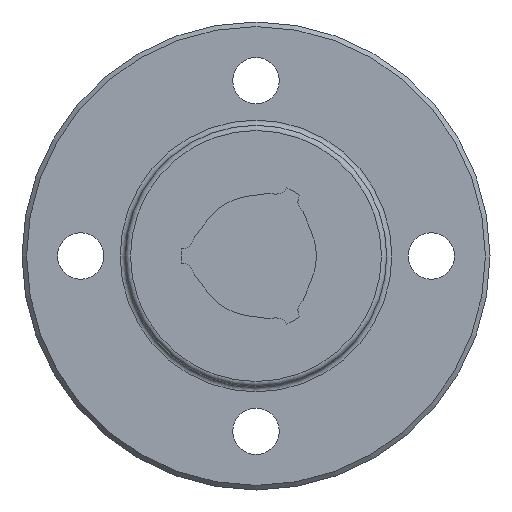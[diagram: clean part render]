
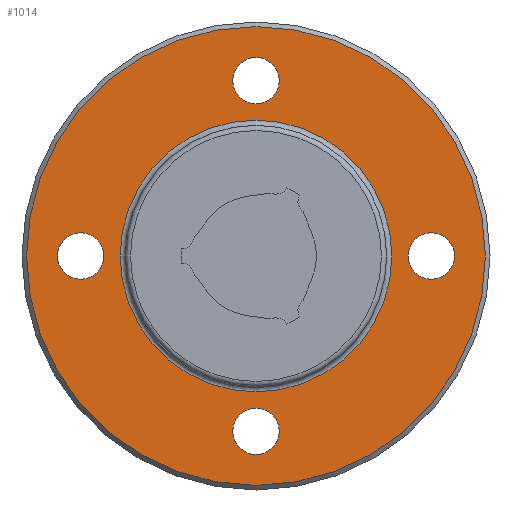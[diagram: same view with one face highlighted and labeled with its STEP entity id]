
A CAD part, left-side view. The second image highlights one B-rep face of the part: STEP entity #1014.
In plain terms, the highlighted planar face has unit normal (-1, 0, 0).
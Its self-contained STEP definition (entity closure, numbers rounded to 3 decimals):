
#52=PLANE('',#1143);
#325=ORIENTED_EDGE('',*,*,#537,.F.);
#326=ORIENTED_EDGE('',*,*,#538,.T.);
#327=ORIENTED_EDGE('',*,*,#539,.T.);
#328=ORIENTED_EDGE('',*,*,#540,.T.);
#329=ORIENTED_EDGE('',*,*,#541,.T.);
#330=ORIENTED_EDGE('',*,*,#536,.T.);
#536=EDGE_CURVE('',#654,#654,#730,.T.);
#537=EDGE_CURVE('',#655,#655,#731,.T.);
#538=EDGE_CURVE('',#656,#656,#732,.T.);
#539=EDGE_CURVE('',#657,#657,#733,.T.);
#540=EDGE_CURVE('',#658,#658,#734,.T.);
#541=EDGE_CURVE('',#659,#659,#735,.T.);
#654=VERTEX_POINT('',#1793);
#655=VERTEX_POINT('',#1796);
#656=VERTEX_POINT('',#1798);
#657=VERTEX_POINT('',#1800);
#658=VERTEX_POINT('',#1802);
#659=VERTEX_POINT('',#1804);
#730=CIRCLE('',#1142,13.175);
#731=CIRCLE('',#1144,22.25);
#732=CIRCLE('',#1145,2.25);
#733=CIRCLE('',#1146,2.25);
#734=CIRCLE('',#1147,2.25);
#735=CIRCLE('',#1148,2.25);
#798=EDGE_LOOP('',(#325));
#799=EDGE_LOOP('',(#326));
#800=EDGE_LOOP('',(#327));
#801=EDGE_LOOP('',(#328));
#802=EDGE_LOOP('',(#329));
#803=EDGE_LOOP('',(#330));
#894=FACE_BOUND('',#798,.T.);
#895=FACE_BOUND('',#799,.T.);
#896=FACE_BOUND('',#800,.T.);
#897=FACE_BOUND('',#801,.T.);
#898=FACE_BOUND('',#802,.T.);
#899=FACE_BOUND('',#803,.T.);
#1014=ADVANCED_FACE('',(#894,#895,#896,#897,#898,#899),#52,.F.);
#1142=AXIS2_PLACEMENT_3D('',#1792,#1382,#1383);
#1143=AXIS2_PLACEMENT_3D('',#1794,#1384,#1385);
#1144=AXIS2_PLACEMENT_3D('',#1795,#1386,#1387);
#1145=AXIS2_PLACEMENT_3D('',#1797,#1388,#1389);
#1146=AXIS2_PLACEMENT_3D('',#1799,#1390,#1391);
#1147=AXIS2_PLACEMENT_3D('',#1801,#1392,#1393);
#1148=AXIS2_PLACEMENT_3D('',#1803,#1394,#1395);
#1382=DIRECTION('',(1.,0.,0.));
#1383=DIRECTION('',(0.,0.,-1.));
#1384=DIRECTION('',(1.,0.,0.));
#1385=DIRECTION('',(0.,0.,-1.));
#1386=DIRECTION('',(1.,0.,0.));
#1387=DIRECTION('',(0.,0.,-1.));
#1388=DIRECTION('',(1.,0.,0.));
#1389=DIRECTION('',(0.,0.,-1.));
#1390=DIRECTION('',(1.,0.,0.));
#1391=DIRECTION('',(0.,0.,-1.));
#1392=DIRECTION('',(1.,0.,0.));
#1393=DIRECTION('',(0.,0.,-1.));
#1394=DIRECTION('',(1.,0.,0.));
#1395=DIRECTION('',(0.,0.,-1.));
#1792=CARTESIAN_POINT('',(15.5,0.,0.));
#1793=CARTESIAN_POINT('',(15.5,0.,-13.175));
#1794=CARTESIAN_POINT('',(15.5,13.175,0.));
#1795=CARTESIAN_POINT('',(15.5,0.,0.));
#1796=CARTESIAN_POINT('',(15.5,0.,-22.25));
#1797=CARTESIAN_POINT('',(15.5,17.,0.));
#1798=CARTESIAN_POINT('',(15.5,17.,-2.25));
#1799=CARTESIAN_POINT('',(15.5,0.,-17.));
#1800=CARTESIAN_POINT('',(15.5,0.,-19.25));
#1801=CARTESIAN_POINT('',(15.5,0.,17.));
#1802=CARTESIAN_POINT('',(15.5,0.,14.75));
#1803=CARTESIAN_POINT('',(15.5,-17.,0.));
#1804=CARTESIAN_POINT('',(15.5,-17.,-2.25));
